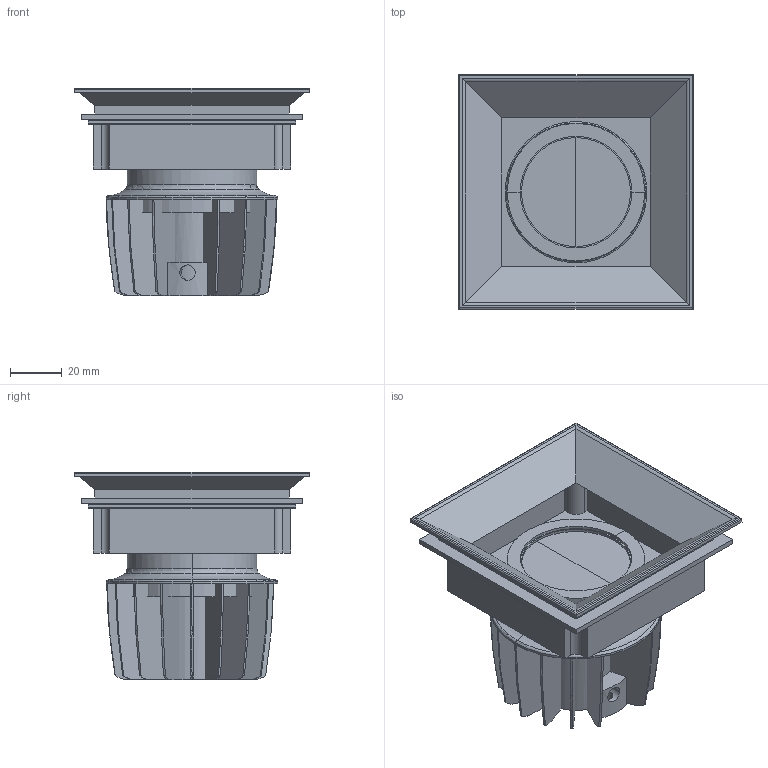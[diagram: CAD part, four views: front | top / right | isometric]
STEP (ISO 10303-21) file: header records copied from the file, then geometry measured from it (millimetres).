
FILE_DESCRIPTION(/* description */ (''),/* implementation_level */ '2;1');
FILE_NAME(/* name */ 'C:\Users\FrancoSartori\Documents\FARO\01_En Proceso\0000_2022\000_PRO\000_PODIUM\03_Publicación\PODIUM módulo DFA.stp',/* time_stamp */ '2022-05-23T16:15:18+02:00',/* author */ ('FrancoSartori'),/* organization */ (''),/* preprocessor_version */ 'ST-DEVELOPER v19',/* originating_system */ 'AutoCAD Mechanical',/* authorisation */ '');
FILE_SCHEMA (('AUTOMOTIVE_DESIGN { 1 0 10303 214 3 1 1 }'));
Length unit declared in the file: millimetre
Products named in the file (2): Product; PODIUM módulo DFA_ - Lamp-728164-Export
Assembly tree (1 placements, depth 2):
  Product
    PODIUM módulo DFA_ - Lamp-728164-Export
Bounding box: 90.5 x 90.5 x 80.1 mm (x, y, z)
Volume: 85660.7 mm3; surface area: 92995 mm2
Topology: 23 solids, 23 shells, 399 faces, 966 edges, 615 vertices
Faces by surface type: plane 212, cylinder 95, bspline 59, torus 27, cone 6
Entity records: 13791 total; most frequent: CARTESIAN_POINT 4797, ORIENTED_EDGE 1932, DIRECTION 1699, EDGE_CURVE 966, VERTEX_POINT 615, AXIS2_PLACEMENT_3D 600, LINE 499, VECTOR 499
